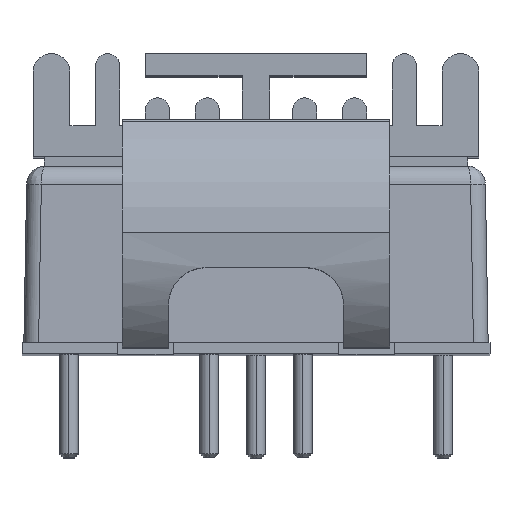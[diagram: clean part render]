
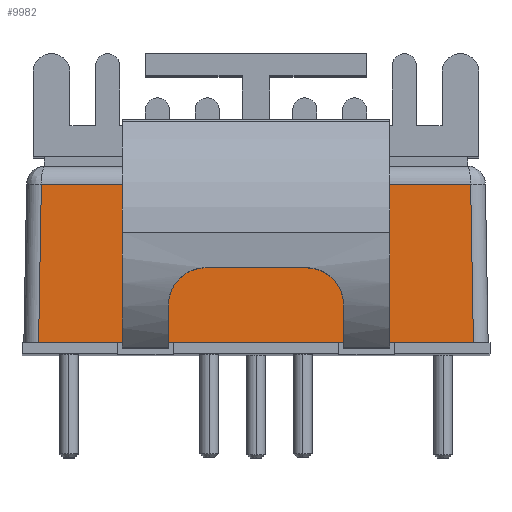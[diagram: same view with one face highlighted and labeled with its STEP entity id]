
A CAD part, top view. The second image highlights one B-rep face of the part: STEP entity #9982.
In plain terms, the highlighted planar face has unit normal (0, 0.018, 1).
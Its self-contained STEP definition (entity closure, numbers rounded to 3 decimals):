
#306 = PLANE ( 'NONE',  #31754 ) ;
#902 = VERTEX_POINT ( 'NONE', #35510 ) ;
#1142 = ORIENTED_EDGE ( 'NONE', *, *, #4819, .T. ) ;
#2370 = CARTESIAN_POINT ( 'NONE',  ( 4.5, 0.6, 25.25 ) ) ;
#2943 = VERTEX_POINT ( 'NONE', #12906 ) ;
#3468 = CARTESIAN_POINT ( 'NONE',  ( -11.65, 9.217, 25.1 ) ) ;
#4425 = EDGE_CURVE ( 'NONE', #10053, #24126, #18747, .T. ) ;
#4819 = EDGE_CURVE ( 'NONE', #902, #14786, #19003, .T. ) ;
#5499 = CARTESIAN_POINT ( 'NONE',  ( -7.5, 0.6, 25.25 ) ) ;
#6039 = CARTESIAN_POINT ( 'NONE',  ( -12.6, 0.6, 25.25 ) ) ;
#6145 = CARTESIAN_POINT ( 'NONE',  ( -11.65, 9.217, 25.1 ) ) ;
#6402 = DIRECTION ( 'NONE',  ( 1., 0., 0. ) ) ;
#6618 = DIRECTION ( 'NONE',  ( -0.017, -1., 0.017 ) ) ;
#7173 = VECTOR ( 'NONE', #6402, 1000. ) ;
#8832 = DIRECTION ( 'NONE',  ( 0., -1., 0.017 ) ) ;
#8886 = EDGE_CURVE ( 'NONE', #14786, #10053, #29905, .T. ) ;
#9096 = EDGE_LOOP ( 'NONE', ( #27191, #18813, #1142, #25796, #35596, #12063, #32129, #27816 ) ) ;
#9982 = ADVANCED_FACE ( 'NONE', ( #22659 ), #306, .T. ) ;
#10053 = VERTEX_POINT ( 'NONE', #3468 ) ;
#10371 = CARTESIAN_POINT ( 'NONE',  ( 11.8, 0.6, 25.25 ) ) ;
#11337 = VECTOR ( 'NONE', #6618, 1000. ) ;
#12063 = ORIENTED_EDGE ( 'NONE', *, *, #34404, .F. ) ;
#12295 = VECTOR ( 'NONE', #17903, 1000. ) ;
#12906 = CARTESIAN_POINT ( 'NONE',  ( 7.5, 0.6, 25.25 ) ) ;
#13814 = VERTEX_POINT ( 'NONE', #2370 ) ;
#14441 = VERTEX_POINT ( 'NONE', #5499 ) ;
#14451 = CARTESIAN_POINT ( 'NONE',  ( -12.7, 0.6, 25.25 ) ) ;
#14786 = VERTEX_POINT ( 'NONE', #21055 ) ;
#14974 = VECTOR ( 'NONE', #22896, 1000. ) ;
#15315 = CARTESIAN_POINT ( 'NONE',  ( -11.8, 0.6, 25.25 ) ) ;
#16370 = DIRECTION ( 'NONE',  ( -1., 0., 0. ) ) ;
#16949 = DIRECTION ( 'NONE',  ( -1., 0., 0. ) ) ;
#17903 = DIRECTION ( 'NONE',  ( -1., 0., 0. ) ) ;
#18681 = VECTOR ( 'NONE', #30027, 1000. ) ;
#18747 = LINE ( 'NONE', #6145, #11337 ) ;
#18813 = ORIENTED_EDGE ( 'NONE', *, *, #19359, .F. ) ;
#19003 = LINE ( 'NONE', #10371, #18681 ) ;
#19359 = EDGE_CURVE ( 'NONE', #902, #2943, #29953, .T. ) ;
#20056 = EDGE_CURVE ( 'NONE', #13814, #28121, #31186, .T. ) ;
#20817 = CARTESIAN_POINT ( 'NONE',  ( -12.6, 0.6, 25.25 ) ) ;
#21055 = CARTESIAN_POINT ( 'NONE',  ( 11.65, 9.217, 25.1 ) ) ;
#22659 = FACE_OUTER_BOUND ( 'NONE', #9096, .T. ) ;
#22832 = VECTOR ( 'NONE', #16370, 1000. ) ;
#22896 = DIRECTION ( 'NONE',  ( -1., 0., 0. ) ) ;
#23031 = CARTESIAN_POINT ( 'NONE',  ( -12.6, 0.6, 25.25 ) ) ;
#24126 = VERTEX_POINT ( 'NONE', #15315 ) ;
#24304 = VECTOR ( 'NONE', #26627, 1000. ) ;
#25608 = DIRECTION ( 'NONE',  ( 0., 0.017, 1. ) ) ;
#25796 = ORIENTED_EDGE ( 'NONE', *, *, #8886, .T. ) ;
#26627 = DIRECTION ( 'NONE',  ( 1., 0., 0. ) ) ;
#27191 = ORIENTED_EDGE ( 'NONE', *, *, #27542, .T. ) ;
#27542 = EDGE_CURVE ( 'NONE', #13814, #2943, #30462, .T. ) ;
#27816 = ORIENTED_EDGE ( 'NONE', *, *, #20056, .F. ) ;
#28121 = VERTEX_POINT ( 'NONE', #28820 ) ;
#28820 = CARTESIAN_POINT ( 'NONE',  ( -4.5, 0.6, 25.25 ) ) ;
#29014 = VECTOR ( 'NONE', #16949, 1000. ) ;
#29905 = LINE ( 'NONE', #33835, #29014 ) ;
#29953 = LINE ( 'NONE', #14451, #14974 ) ;
#30027 = DIRECTION ( 'NONE',  ( -0.017, 1., -0.017 ) ) ;
#30462 = LINE ( 'NONE', #23031, #7173 ) ;
#31029 = EDGE_CURVE ( 'NONE', #14441, #28121, #31810, .T. ) ;
#31186 = LINE ( 'NONE', #34936, #12295 ) ;
#31238 = LINE ( 'NONE', #33118, #22832 ) ;
#31754 = AXIS2_PLACEMENT_3D ( 'NONE', #6039, #25608, #8832 ) ;
#31810 = LINE ( 'NONE', #20817, #24304 ) ;
#32129 = ORIENTED_EDGE ( 'NONE', *, *, #31029, .T. ) ;
#33118 = CARTESIAN_POINT ( 'NONE',  ( -12.7, 0.6, 25.25 ) ) ;
#33835 = CARTESIAN_POINT ( 'NONE',  ( -12.6, 9.217, 25.1 ) ) ;
#34404 = EDGE_CURVE ( 'NONE', #14441, #24126, #31238, .T. ) ;
#34936 = CARTESIAN_POINT ( 'NONE',  ( -12.7, 0.6, 25.25 ) ) ;
#35510 = CARTESIAN_POINT ( 'NONE',  ( 11.8, 0.6, 25.25 ) ) ;
#35596 = ORIENTED_EDGE ( 'NONE', *, *, #4425, .T. ) ;
